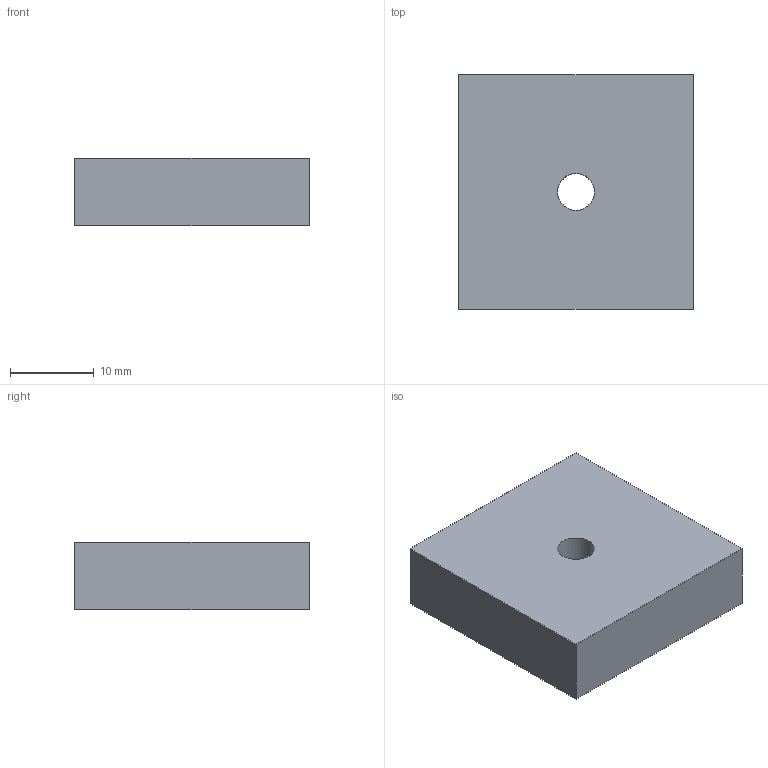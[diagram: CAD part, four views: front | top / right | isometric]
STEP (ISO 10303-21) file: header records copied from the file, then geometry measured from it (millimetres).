
FILE_DESCRIPTION(('Open CASCADE Model'),'2;1');
FILE_NAME('Open CASCADE Shape Model','2026-10-21T12:05:00',('Author'),( 'Open CASCADE'),'Open CASCADE STEP processor 7.9','Open CASCADE 7.9' ,'Unknown');
FILE_SCHEMA(('AUTOMOTIVE_DESIGN { 1 0 10303 214 1 1 1 1 }'));
Length unit declared in the file: millimetre
Products named in the file (1): Open CASCADE STEP translator 7.9 4
Bounding box: 28 x 28 x 8 mm (x, y, z)
Volume: 6150.4 mm3; surface area: 2544.2 mm2
Topology: 1 solids, 1 shells, 7 faces, 15 edges, 10 vertices
Faces by surface type: plane 6, cylinder 1
Full cylindrical faces by diameter (mm): 4.4 x1
Entity records: 406 total; most frequent: CARTESIAN_POINT 75, DIRECTION 61, LINE 41, VECTOR 41, ORIENTED_EDGE 30, PCURVE 30, DEFINITIONAL_REPRESENTATION 30, EDGE_CURVE 15
